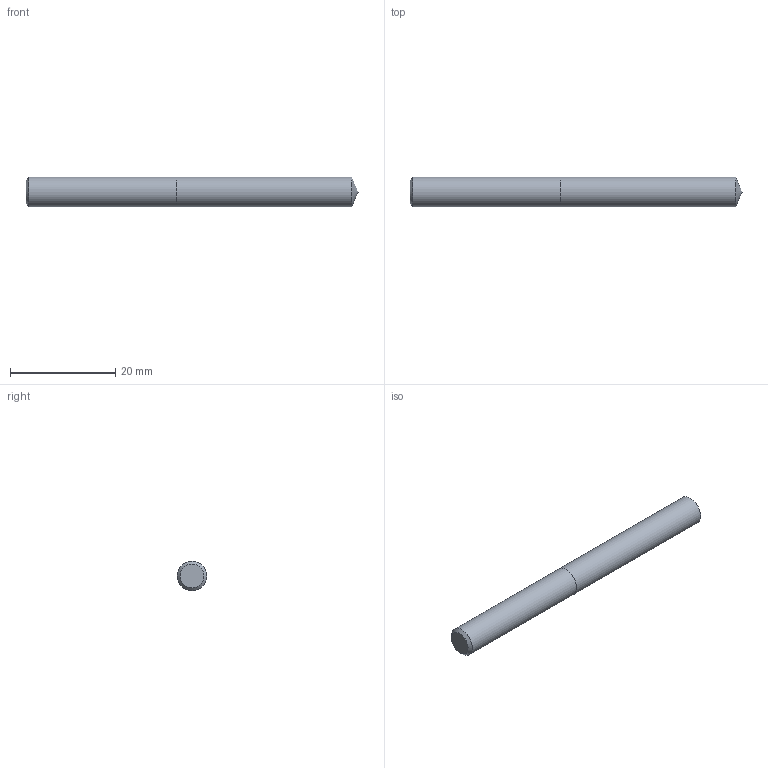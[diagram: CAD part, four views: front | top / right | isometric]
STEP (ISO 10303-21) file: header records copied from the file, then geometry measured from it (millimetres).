
FILE_DESCRIPTION (( 'STEP AP214' ), '1' );
FILE_NAME ('03-2344.STEP', '2022-06-03T06:29:57', ( 'USER' ), ( '' ), 'SwSTEP 2.0', 'SolidWorks 2018', '' );
FILE_SCHEMA (( 'AUTOMOTIVE_DESIGN' ));
Length unit declared in the file: inch
Products named in the file (1): 03-2344
Bounding box: 63.08 x 5.61 x 5.61 mm (x, y, z)
Volume: 1539.2 mm3; surface area: 1186.7 mm2
Topology: 2 solids, 2 shells, 7 faces, 11 edges, 7 vertices
Faces by surface type: plane 3, cylinder 2, cone 2
Full cylindrical faces by diameter (mm): 5.613 x2
Entity records: 214 total; most frequent: DIRECTION 26, CARTESIAN_POINT 18, AXIS2_PLACEMENT_3D 13, ORIENTED_EDGE 10, EDGE_LOOP 10, FACE_OUTER_BOUND 9, ADVANCED_FACE 7, UNCERTAINTY_MEASURE_WITH_UNIT 7
